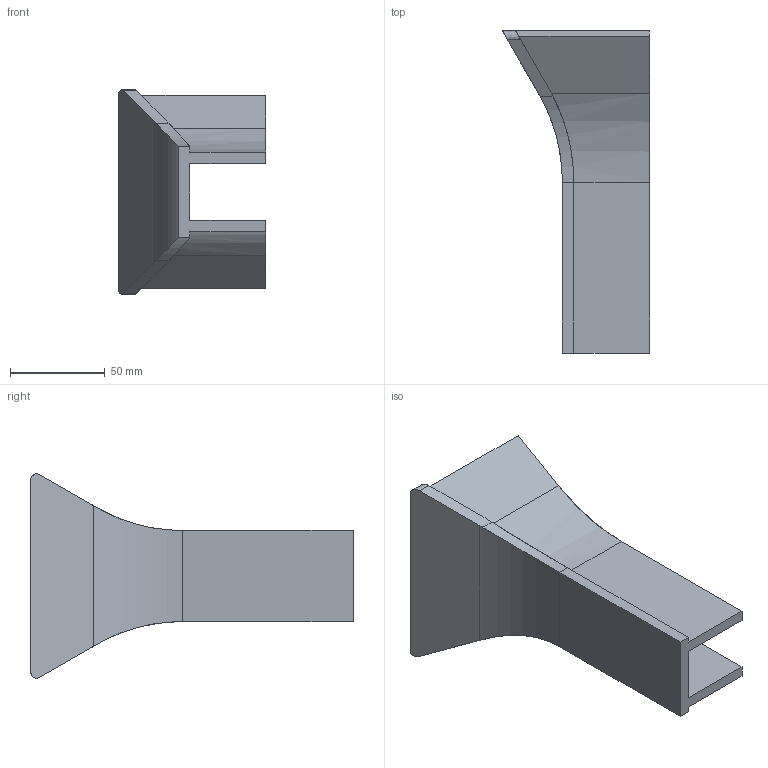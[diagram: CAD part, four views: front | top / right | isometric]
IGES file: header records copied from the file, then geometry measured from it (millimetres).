
Global section: file name: E:\UnigraphicsGraphicData\MISUMI_PRESS-PARTS\IGES\3d_cilg-90-40-30_00261_r00.igs; native system: NX V5.0; preprocessor: UGS NX IGES V5.0; author: MISUMI; date: 20110105.160246; units: millimetre
Bounding box: 77.65 x 170 x 107.89 mm (x, y, z)
Surface area: 57610.1 mm2 (no closed solid volume)
Topology: 0 solids, 0 shells, 38 faces, 214 edges, 214 vertices
Faces by surface type: bspline 38
